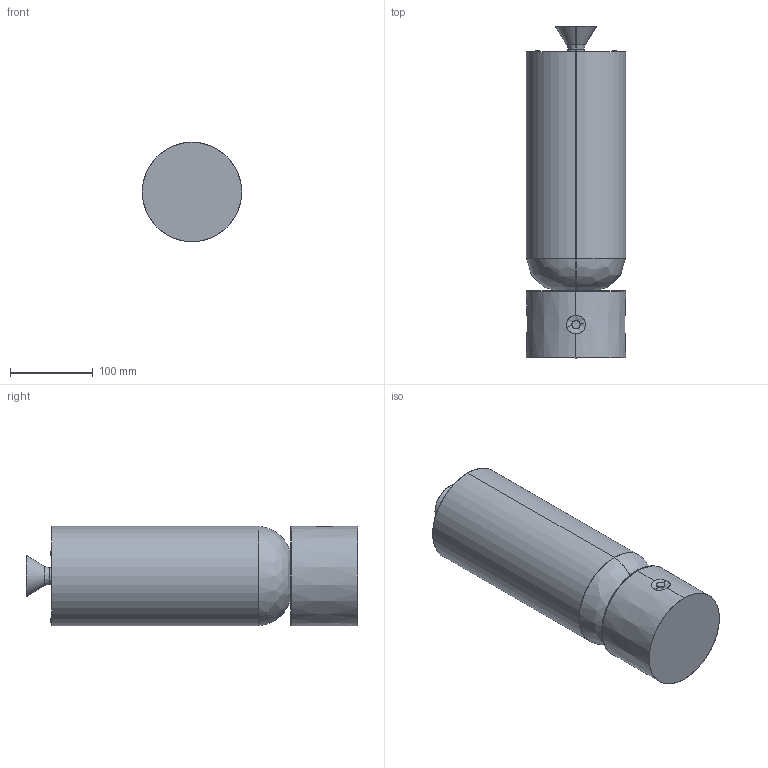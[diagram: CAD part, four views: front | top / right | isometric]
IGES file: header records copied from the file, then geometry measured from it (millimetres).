
Start section: SolidWorks IGES file using analytic representation for surfaces
Global section: file name: C:\Users\adrian\Desktop\Nueva Colección Enero 2026\3D\drive-download-20251230T145340Z-1-001\1358\S1358_Sobremesa.step.IGS; native system: SolidWorks 2023; preprocessor: SolidWorks 2023; author: adrian; date: 251230.160305; units: millimetre
Bounding box: 120 x 400.7 x 120 mm (x, y, z)
Surface area: 343408.3 mm2 (no closed solid volume)
Topology: 0 solids, 0 shells, 46 faces, 1244 edges, 1244 vertices
Faces by surface type: bspline 24, revolution 22
